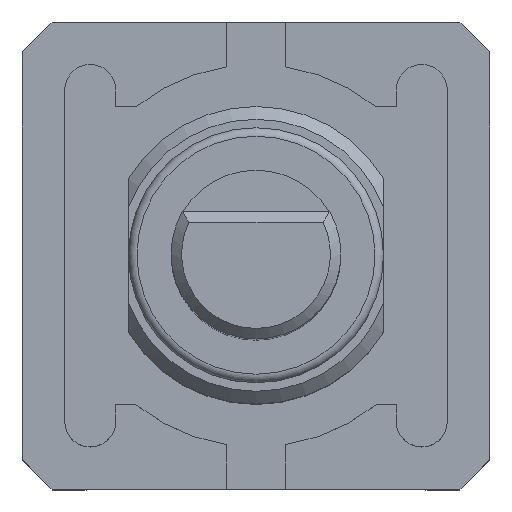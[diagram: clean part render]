
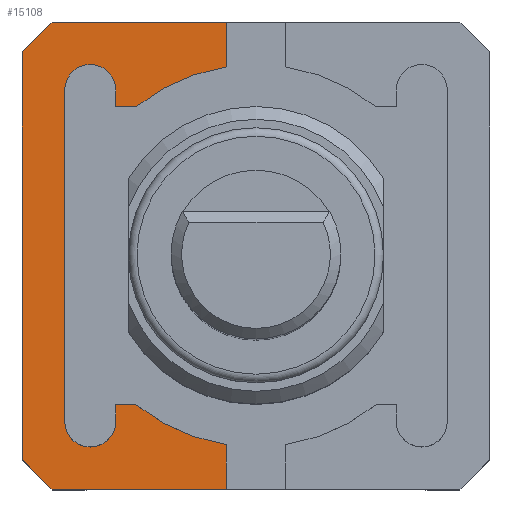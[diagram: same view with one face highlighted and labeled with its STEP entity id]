
A CAD part, top view. The second image highlights one B-rep face of the part: STEP entity #15108.
In plain terms, the highlighted planar face has unit normal (0, 0, 1).
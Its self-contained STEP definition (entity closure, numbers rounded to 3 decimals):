
#643=CIRCLE('',#16220,4.5);
#645=CIRCLE('',#16225,0.6);
#647=CIRCLE('',#16229,0.6);
#649=CIRCLE('',#16234,4.5);
#1400=FACE_OUTER_BOUND('',#2185,.T.);
#2185=EDGE_LOOP('',(#12978,#12979,#12980,#12981,#12982,#12983,#12984,#12985,
#12986,#12987,#12988,#12989,#12990,#12991,#12992,#12993));
#3681=LINE('',#24099,#5325);
#3703=LINE('',#24156,#5347);
#3795=LINE('',#24378,#5439);
#3798=LINE('',#24384,#5442);
#3802=LINE('',#24396,#5446);
#3806=LINE('',#24408,#5450);
#3809=LINE('',#24414,#5453);
#3813=LINE('',#24426,#5457);
#3840=LINE('',#24495,#5484);
#3842=LINE('',#24500,#5486);
#3843=LINE('',#24501,#5487);
#3844=LINE('',#24502,#5488);
#5325=VECTOR('',#19781,10.);
#5347=VECTOR('',#19825,10.);
#5439=VECTOR('',#20025,10.);
#5442=VECTOR('',#20030,10.);
#5446=VECTOR('',#20042,10.);
#5450=VECTOR('',#20054,10.);
#5453=VECTOR('',#20059,10.);
#5457=VECTOR('',#20071,10.);
#5484=VECTOR('',#20138,10.);
#5486=VECTOR('',#20144,10.);
#5487=VECTOR('',#20145,10.);
#5488=VECTOR('',#20146,10.);
#6698=VERTEX_POINT('',#24096);
#6699=VERTEX_POINT('',#24098);
#6722=VERTEX_POINT('',#24153);
#6723=VERTEX_POINT('',#24155);
#6784=VERTEX_POINT('',#24368);
#6785=VERTEX_POINT('',#24370);
#6787=VERTEX_POINT('',#24376);
#6789=VERTEX_POINT('',#24382);
#6791=VERTEX_POINT('',#24388);
#6793=VERTEX_POINT('',#24394);
#6795=VERTEX_POINT('',#24400);
#6797=VERTEX_POINT('',#24406);
#6799=VERTEX_POINT('',#24412);
#6801=VERTEX_POINT('',#24418);
#6803=VERTEX_POINT('',#24424);
#6826=VERTEX_POINT('',#24499);
#8696=EDGE_CURVE('',#6698,#6699,#3681,.T.);
#8722=EDGE_CURVE('',#6722,#6723,#3703,.T.);
#8826=EDGE_CURVE('',#6785,#6784,#643,.T.);
#8830=EDGE_CURVE('',#6784,#6787,#3795,.T.);
#8833=EDGE_CURVE('',#6787,#6789,#3798,.T.);
#8836=EDGE_CURVE('',#6789,#6791,#645,.T.);
#8839=EDGE_CURVE('',#6791,#6793,#3802,.T.);
#8842=EDGE_CURVE('',#6793,#6795,#647,.T.);
#8845=EDGE_CURVE('',#6795,#6797,#3806,.T.);
#8848=EDGE_CURVE('',#6797,#6799,#3809,.T.);
#8851=EDGE_CURVE('',#6799,#6801,#649,.T.);
#8854=EDGE_CURVE('',#6801,#6803,#3813,.T.);
#8889=EDGE_CURVE('',#6722,#6785,#3840,.T.);
#8891=EDGE_CURVE('',#6826,#6803,#3842,.T.);
#8892=EDGE_CURVE('',#6699,#6826,#3843,.T.);
#8893=EDGE_CURVE('',#6723,#6698,#3844,.T.);
#12978=ORIENTED_EDGE('',*,*,#8854,.T.);
#12979=ORIENTED_EDGE('',*,*,#8891,.F.);
#12980=ORIENTED_EDGE('',*,*,#8892,.F.);
#12981=ORIENTED_EDGE('',*,*,#8696,.F.);
#12982=ORIENTED_EDGE('',*,*,#8893,.F.);
#12983=ORIENTED_EDGE('',*,*,#8722,.F.);
#12984=ORIENTED_EDGE('',*,*,#8889,.T.);
#12985=ORIENTED_EDGE('',*,*,#8826,.T.);
#12986=ORIENTED_EDGE('',*,*,#8830,.T.);
#12987=ORIENTED_EDGE('',*,*,#8833,.T.);
#12988=ORIENTED_EDGE('',*,*,#8836,.T.);
#12989=ORIENTED_EDGE('',*,*,#8839,.T.);
#12990=ORIENTED_EDGE('',*,*,#8842,.T.);
#12991=ORIENTED_EDGE('',*,*,#8845,.T.);
#12992=ORIENTED_EDGE('',*,*,#8848,.T.);
#12993=ORIENTED_EDGE('',*,*,#8851,.T.);
#13613=PLANE('',#16257);
#15108=ADVANCED_FACE('',(#1400),#13613,.T.);
#16220=AXIS2_PLACEMENT_3D('',#24371,#20018,#20019);
#16225=AXIS2_PLACEMENT_3D('',#24390,#20036,#20037);
#16229=AXIS2_PLACEMENT_3D('',#24402,#20048,#20049);
#16234=AXIS2_PLACEMENT_3D('',#24420,#20065,#20066);
#16257=AXIS2_PLACEMENT_3D('',#24498,#20142,#20143);
#19781=DIRECTION('',(0.,1.,0.));
#19825=DIRECTION('',(-1.,0.,0.));
#20018=DIRECTION('center_axis',(0.,0.,
-1.));
#20019=DIRECTION('ref_axis',(0.629,0.778,0.));
#20025=DIRECTION('',(-1.,0.,0.));
#20030=DIRECTION('',(0.,-1.,0.));
#20036=DIRECTION('center_axis',(0.,0.,
-1.));
#20037=DIRECTION('ref_axis',(1.,0.,0.));
#20042=DIRECTION('',(0.,1.,0.));
#20048=DIRECTION('center_axis',(0.,0.,
-1.));
#20049=DIRECTION('ref_axis',(-1.,0.,0.));
#20054=DIRECTION('',(0.,-1.,0.));
#20059=DIRECTION('',(1.,0.,0.));
#20065=DIRECTION('center_axis',(0.,0.,
-1.));
#20066=DIRECTION('ref_axis',(0.156,-0.988,0.));
#20071=DIRECTION('',(0.,1.,0.));
#20138=DIRECTION('',(0.,1.,0.));
#20142=DIRECTION('center_axis',(0.,0.,
1.));
#20143=DIRECTION('ref_axis',(0.,1.,0.));
#20144=DIRECTION('',(1.,0.,0.));
#20145=DIRECTION('',(0.707,0.707,0.));
#20146=DIRECTION('',(-0.707,0.707,0.));
#24096=CARTESIAN_POINT('',(-26.521,-12.086,14.585));
#24098=CARTESIAN_POINT('',(-26.521,-2.486,14.585));
#24099=CARTESIAN_POINT('',(-26.521,-2.486,14.585));
#24153=CARTESIAN_POINT('',(-21.721,-12.786,14.585));
#24155=CARTESIAN_POINT('',(-25.821,-12.786,14.585));
#24156=CARTESIAN_POINT('',(-25.821,-12.786,14.585));
#24368=CARTESIAN_POINT('',(-23.85,-10.786,14.585));
#24370=CARTESIAN_POINT('',(-21.721,-11.731,14.585));
#24371=CARTESIAN_POINT('Origin',(-21.021,-7.286,14.585));
#24376=CARTESIAN_POINT('',(-24.321,-10.786,14.585));
#24378=CARTESIAN_POINT('',(-22.436,-10.786,14.585));
#24382=CARTESIAN_POINT('',(-24.321,-11.186,14.585));
#24384=CARTESIAN_POINT('',(-24.321,-9.036,14.585));
#24388=CARTESIAN_POINT('',(-25.521,-11.186,14.585));
#24390=CARTESIAN_POINT('Origin',(-24.921,-11.186,14.585));
#24394=CARTESIAN_POINT('',(-25.521,-3.386,14.585));
#24396=CARTESIAN_POINT('',(-25.521,-9.236,14.585));
#24400=CARTESIAN_POINT('',(-24.321,-3.386,14.585));
#24402=CARTESIAN_POINT('Origin',(-24.921,-3.386,14.585));
#24406=CARTESIAN_POINT('',(-24.321,-3.786,14.585));
#24408=CARTESIAN_POINT('',(-24.321,-5.336,14.585));
#24412=CARTESIAN_POINT('',(-23.85,-3.786,14.585));
#24414=CARTESIAN_POINT('',(-22.671,-3.786,14.585));
#24418=CARTESIAN_POINT('',(-21.721,-2.841,14.585));
#24420=CARTESIAN_POINT('Origin',(-21.021,-7.286,14.585));
#24424=CARTESIAN_POINT('',(-21.721,-1.786,14.585));
#24426=CARTESIAN_POINT('',(-21.721,-5.064,14.585));
#24495=CARTESIAN_POINT('',(-21.721,-10.036,14.585));
#24498=CARTESIAN_POINT('Origin',(-21.021,-7.286,14.585));
#24499=CARTESIAN_POINT('',(-25.821,-1.786,14.585));
#24500=CARTESIAN_POINT('',(-16.221,-1.786,14.585));
#24501=CARTESIAN_POINT('',(-25.821,-1.786,14.585));
#24502=CARTESIAN_POINT('',(-26.521,-12.086,14.585));
